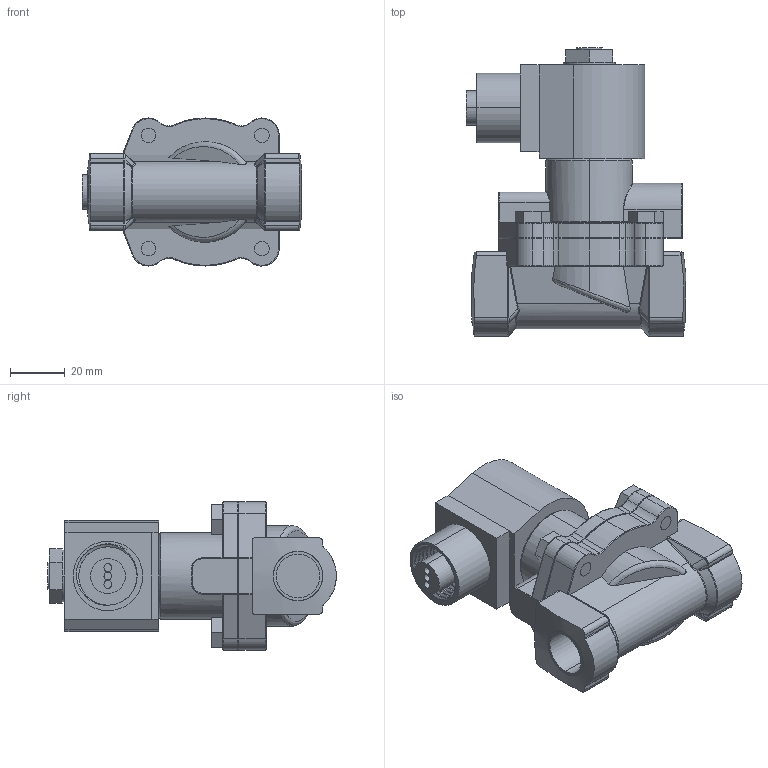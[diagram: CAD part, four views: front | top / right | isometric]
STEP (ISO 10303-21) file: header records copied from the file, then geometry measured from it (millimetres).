
FILE_DESCRIPTION (( 'STEP AP203' ), '1' );
FILE_NAME ('H211G_4D.STEP', '2023-04-20T17:59:03', ( '' ), ( '' ), 'SwSTEP 2.0', 'SolidWorks 2023', '' );
FILE_SCHEMA (( 'CONFIG_CONTROL_DESIGN' ));
Length unit declared in the file: inch
Products named in the file (1): H211G_4D
Bounding box: 80.18 x 105.56 x 54.13 mm (x, y, z)
Volume: 171483.8 mm3; surface area: 33420.7 mm2
Topology: 1 solids, 1 shells, 432 faces, 1009 edges, 597 vertices
Faces by surface type: cylinder 158, bspline 135, plane 135, cone 4
Entity records: 17310 total; most frequent: CARTESIAN_POINT 8267, ORIENTED_EDGE 2014, DIRECTION 1737, EDGE_CURVE 1007, AXIS2_PLACEMENT_3D 669, VERTEX_POINT 597, EDGE_LOOP 452, FACE_OUTER_BOUND 432
